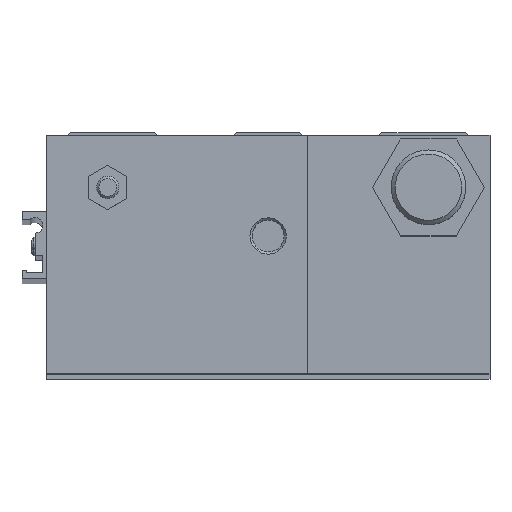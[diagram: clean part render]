
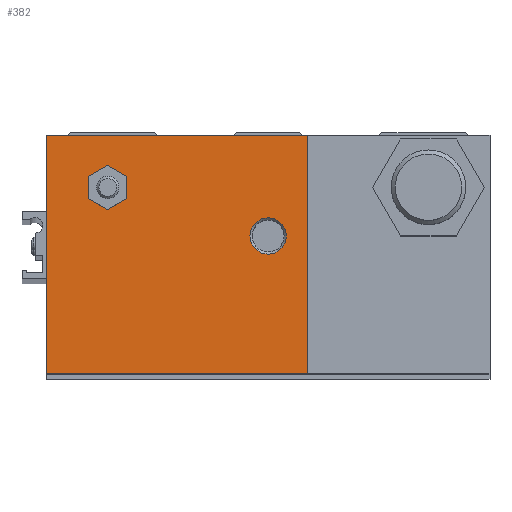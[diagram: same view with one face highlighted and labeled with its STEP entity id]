
A CAD part, top view. The second image highlights one B-rep face of the part: STEP entity #382.
In plain terms, the highlighted planar face has unit normal (0, 0, 1) as drawn and (0, 0, -1) by its records, which use the part's own axes.
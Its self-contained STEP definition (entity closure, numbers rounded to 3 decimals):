
#382 = ADVANCED_FACE( '', ( #907, #908, #909 ), #910, .F. );
#907 = FACE_BOUND( '', #1663, .T. );
#908 = FACE_BOUND( '', #1664, .T. );
#909 = FACE_OUTER_BOUND( '', #1665, .T. );
#910 = PLANE( '', #1666 );
#1663 = EDGE_LOOP( '', ( #2567, #2568, #2569, #2570, #2571, #2572 ) );
#1664 = EDGE_LOOP( '', ( #2573 ) );
#1665 = EDGE_LOOP( '', ( #2574, #2575, #2576, #2577 ) );
#1666 = AXIS2_PLACEMENT_3D( '', #2578, #2579, #2580 );
#2567 = ORIENTED_EDGE( '', *, *, #3871, .T. );
#2568 = ORIENTED_EDGE( '', *, *, #3872, .T. );
#2569 = ORIENTED_EDGE( '', *, *, #3873, .T. );
#2570 = ORIENTED_EDGE( '', *, *, #3874, .T. );
#2571 = ORIENTED_EDGE( '', *, *, #3875, .T. );
#2572 = ORIENTED_EDGE( '', *, *, #3845, .T. );
#2573 = ORIENTED_EDGE( '', *, *, #3876, .T. );
#2574 = ORIENTED_EDGE( '', *, *, #3877, .T. );
#2575 = ORIENTED_EDGE( '', *, *, #3726, .F. );
#2576 = ORIENTED_EDGE( '', *, *, #3878, .F. );
#2577 = ORIENTED_EDGE( '', *, *, #3879, .T. );
#2578 = CARTESIAN_POINT( '', ( 10.5, 64., -815.5 ) );
#2579 = DIRECTION( '', ( 0., 0., 1. ) );
#2580 = DIRECTION( '', ( 1., 0., 0. ) );
#3726 = EDGE_CURVE( '', #4287, #4289, #4290, .T. );
#3845 = EDGE_CURVE( '', #4492, #4493, #4494, .T. );
#3871 = EDGE_CURVE( '', #4493, #4534, #4535, .T. );
#3872 = EDGE_CURVE( '', #4534, #4536, #4537, .T. );
#3873 = EDGE_CURVE( '', #4536, #4538, #4539, .T. );
#3874 = EDGE_CURVE( '', #4538, #4540, #4541, .T. );
#3875 = EDGE_CURVE( '', #4540, #4492, #4542, .T. );
#3876 = EDGE_CURVE( '', #4543, #4543, #4544, .T. );
#3877 = EDGE_CURVE( '', #4545, #4289, #4546, .T. );
#3878 = EDGE_CURVE( '', #4547, #4287, #4548, .T. );
#3879 = EDGE_CURVE( '', #4547, #4545, #4549, .T. );
#4287 = VERTEX_POINT( '', #5099 );
#4289 = VERTEX_POINT( '', #5102 );
#4290 = LINE( '', #5103, #5104 );
#4492 = VERTEX_POINT( '', #5354 );
#4493 = VERTEX_POINT( '', #5355 );
#4494 = LINE( '', #5356, #5357 );
#4534 = VERTEX_POINT( '', #5403 );
#4535 = LINE( '', #5404, #5405 );
#4536 = VERTEX_POINT( '', #5406 );
#4537 = LINE( '', #5407, #5408 );
#4538 = VERTEX_POINT( '', #5409 );
#4539 = LINE( '', #5410, #5411 );
#4540 = VERTEX_POINT( '', #5412 );
#4541 = LINE( '', #5413, #5414 );
#4542 = LINE( '', #5415, #5416 );
#4543 = VERTEX_POINT( '', #5417 );
#4544 = CIRCLE( '', #5418, 4.864 );
#4545 = VERTEX_POINT( '', #5419 );
#4546 = LINE( '', #5420, #5421 );
#4547 = VERTEX_POINT( '', #5422 );
#4548 = LINE( '', #5423, #5424 );
#4549 = LINE( '', #5425, #5426 );
#5099 = CARTESIAN_POINT( '', ( -59.5, 64., -815.5 ) );
#5102 = CARTESIAN_POINT( '', ( -59.5, 0., -815.5 ) );
#5103 = CARTESIAN_POINT( '', ( -59.5, 64., -815.5 ) );
#5104 = VECTOR( '', #6062, 1000. );
#5354 = CARTESIAN_POINT( '', ( -37.85, 16.973, -815.5 ) );
#5355 = CARTESIAN_POINT( '', ( -43., 19.947, -815.5 ) );
#5356 = CARTESIAN_POINT( '', ( -21.951, 7.794, -815.5 ) );
#5357 = VECTOR( '', #6231, 1000. );
#5403 = CARTESIAN_POINT( '', ( -48.15, 16.973, -815.5 ) );
#5404 = CARTESIAN_POINT( '', ( 16.201, 54.126, -815.5 ) );
#5405 = VECTOR( '', #6268, 1000. );
#5406 = CARTESIAN_POINT( '', ( -48.15, 11.027, -815.5 ) );
#5407 = CARTESIAN_POINT( '', ( -48.15, 64., -815.5 ) );
#5408 = VECTOR( '', #6269, 1000. );
#5409 = CARTESIAN_POINT( '', ( -43., 8.053, -815.5 ) );
#5410 = CARTESIAN_POINT( '', ( -27.101, -1.126, -815.5 ) );
#5411 = VECTOR( '', #6270, 1000. );
#5412 = CARTESIAN_POINT( '', ( -37.85, 11.027, -815.5 ) );
#5413 = CARTESIAN_POINT( '', ( 21.351, 45.206, -815.5 ) );
#5414 = VECTOR( '', #6271, 1000. );
#5415 = CARTESIAN_POINT( '', ( -37.85, 64., -815.5 ) );
#5416 = VECTOR( '', #6272, 1000. );
#5417 = CARTESIAN_POINT( '', ( 4.864, 27., -815.5 ) );
#5418 = AXIS2_PLACEMENT_3D( '', #6273, #6274, #6275 );
#5419 = CARTESIAN_POINT( '', ( 10.5, 0., -815.5 ) );
#5420 = CARTESIAN_POINT( '', ( 10.5, 0., -815.5 ) );
#5421 = VECTOR( '', #6276, 1000. );
#5422 = CARTESIAN_POINT( '', ( 10.5, 64., -815.5 ) );
#5423 = CARTESIAN_POINT( '', ( 10.5, 64., -815.5 ) );
#5424 = VECTOR( '', #6277, 1000. );
#5425 = CARTESIAN_POINT( '', ( 10.5, 64., -815.5 ) );
#5426 = VECTOR( '', #6278, 1000. );
#6062 = DIRECTION( '', ( 0., -1., 0. ) );
#6231 = DIRECTION( '', ( -0.866, 0.5, 0. ) );
#6268 = DIRECTION( '', ( -0.866, -0.5, 0. ) );
#6269 = DIRECTION( '', ( 0., -1., 0. ) );
#6270 = DIRECTION( '', ( 0.866, -0.5, 0. ) );
#6271 = DIRECTION( '', ( 0.866, 0.5, 0. ) );
#6272 = DIRECTION( '', ( 0., 1., 0. ) );
#6273 = CARTESIAN_POINT( '', ( 0., 27., -815.5 ) );
#6274 = DIRECTION( '', ( 0., 0., 1. ) );
#6275 = DIRECTION( '', ( 1., 0., 0. ) );
#6276 = DIRECTION( '', ( -1., 0., 0. ) );
#6277 = DIRECTION( '', ( -1., 0., 0. ) );
#6278 = DIRECTION( '', ( 0., -1., 0. ) );
